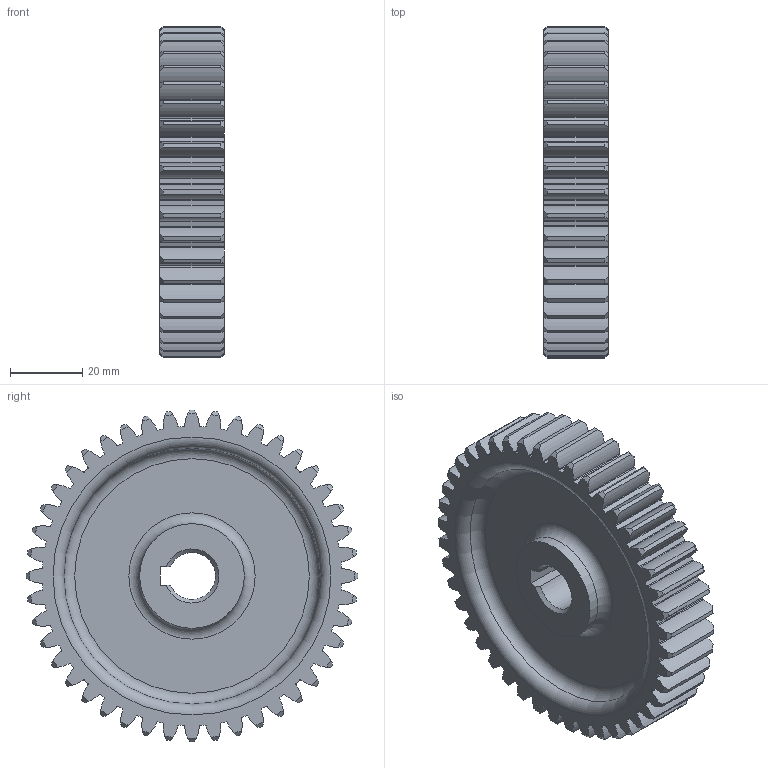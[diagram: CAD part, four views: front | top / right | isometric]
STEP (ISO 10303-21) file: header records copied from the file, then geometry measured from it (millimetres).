
FILE_DESCRIPTION(/* description */ (''),/* implementation_level */ '2;1');
FILE_NAME(/* name */ '',/* time_stamp */ '2024-08-09T13:02:19+09:00',/* author */ ('jhkim'),/* organization */ (''),/* preprocessor_version */ 'ST-DEVELOPER v20',/* originating_system */ 'Autodesk Inventor 2025',/* authorisation */ '');
FILE_SCHEMA (('AUTOMOTIVE_DESIGN { 1 0 10303 214 3 1 1 }'));
Length unit declared in the file: millimetre
Products named in the file (1): 스퍼 기어
Bounding box: 18 x 92 x 92 mm (x, y, z)
Volume: 66457.5 mm3; surface area: 24666 mm2
Topology: 1 solids, 1 shells, 372 faces, 1096 edges, 730 vertices
Faces by surface type: cylinder 267, cone 90, plane 9, torus 6
Full cylindrical faces by diameter (mm): 29 x2
Entity records: 12983 total; most frequent: CARTESIAN_POINT 2735, DIRECTION 2302, ORIENTED_EDGE 2192, EDGE_CURVE 1096, AXIS2_PLACEMENT_3D 1013, VERTEX_POINT 730, CIRCLE 640, EDGE_LOOP 378
